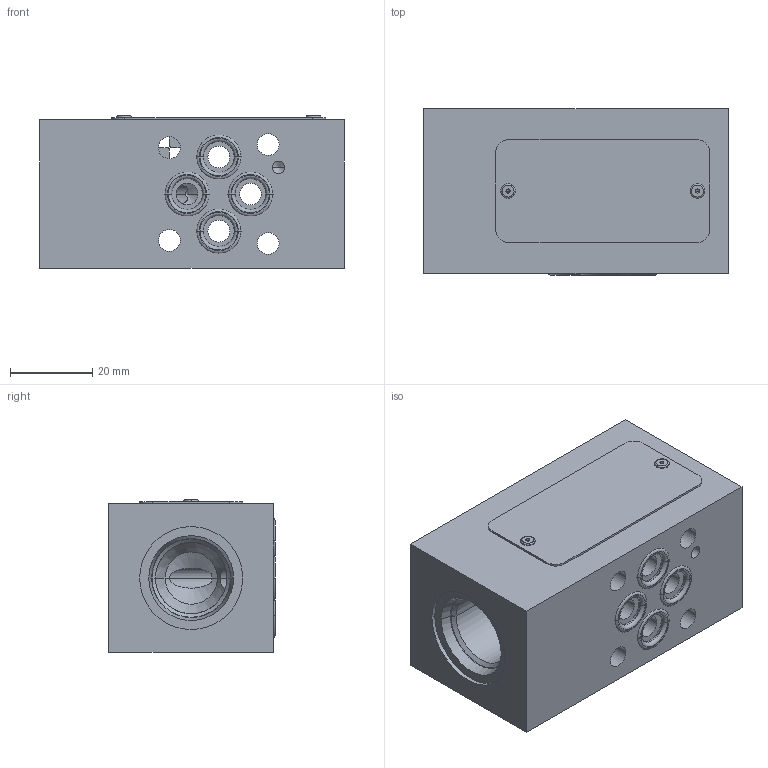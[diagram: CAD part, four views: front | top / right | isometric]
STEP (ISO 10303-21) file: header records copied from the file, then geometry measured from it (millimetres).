
FILE_DESCRIPTION((''),'2;1');
FILE_NAME('30978800_ASM','2023-10-12T',('l.soukupova'),(''),'PRO/ENGINEER BY PARAMETRIC TECHNOLOGY CORPORATION, 2015440','PRO/ENGINEER BY PARAMETRIC TECHNOLOGY CORPORATION, 2015440','');
FILE_SCHEMA(('AUTOMOTIVE_DESIGN { 1 0 10303 214 1 1 1 1 }'));
Length unit declared in the file: millimetre
Products named in the file (8): 30978701; RD_LABEL_25X52_159703; AF_1932_16485; ORIA00750_292673_AF0; ORIA00750_292673_AF1; ORIA00750_292673_AF2; ORIA00750_292673_AF3; 30978800_ASM
Assembly tree (8 placements, depth 2):
  30978800_ASM
    30978701
    RD_LABEL_25X52_159703
    AF_1932_16485  x2
    ORIA00750_292673_AF0
    ORIA00750_292673_AF1
    ORIA00750_292673_AF2
    ORIA00750_292673_AF3
Bounding box: 74 x 40.4 x 37 mm (x, y, z)
Volume: 92979.5 mm3; surface area: 25109.6 mm2
Topology: 8 solids, 11 shells, 170 faces, 505 edges, 419 vertices
Faces by surface type: cylinder 80, torus 36, plane 34, cone 20
Entity records: 8990 total; most frequent: CARTESIAN_POINT 1273, DIRECTION 1126, ORIENTED_EDGE 700, PRESENTATION_STYLE_ASSIGNMENT 616, STYLED_ITEM 524, CURVE_STYLE 515, AXIS2_PLACEMENT_3D 458, EDGE_CURVE 356
